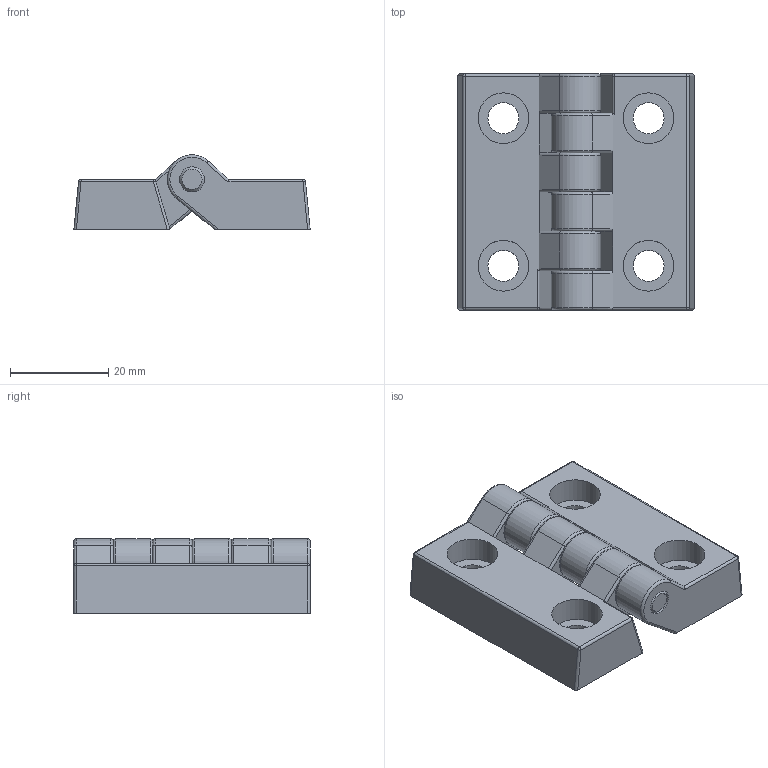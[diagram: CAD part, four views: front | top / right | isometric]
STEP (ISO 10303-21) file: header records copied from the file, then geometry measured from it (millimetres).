
FILE_DESCRIPTION(('STEP AP214'), '1');
FILE_NAME('Ïåòëÿ 400102', '', ('UNSPECIFIED'), ('UNSPECIFIED'), 'ASCON STEP Converter 1.6', 'ASCON Math Kernel', '');
FILE_SCHEMA(('AUTOMOTIVE_DESIGN { 1 0 10303 214 3 1 1}'));
Length unit declared in the file: millimetre
Assembly tree (3 placements, depth 2):
  (unnamed)
    (unnamed)  x2
    (unnamed)
Bounding box: 48 x 48 x 15.09 mm (x, y, z)
Volume: 20216.4 mm3; surface area: 10450.3 mm2
Topology: 3 solids, 3 shells, 125 faces, 285 edges, 162 vertices
Faces by surface type: cylinder 59, plane 44, torus 12, bspline 4, sphere 4, cone 2
Full cylindrical faces by diameter (mm): 5.1 x7, 6.3 x4, 10.3 x4
Entity records: 2572 total; most frequent: CARTESIAN_POINT 497, DIRECTION 301, ORIENTED_EDGE 264, EDGE_CURVE 132, AXIS2_PLACEMENT_3D 119, EDGE_LOOP 87, VERTEX_POINT 83, COLOUR_RGB 67
